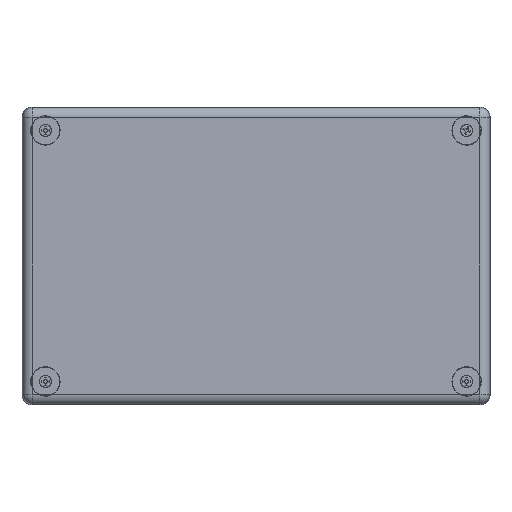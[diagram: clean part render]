
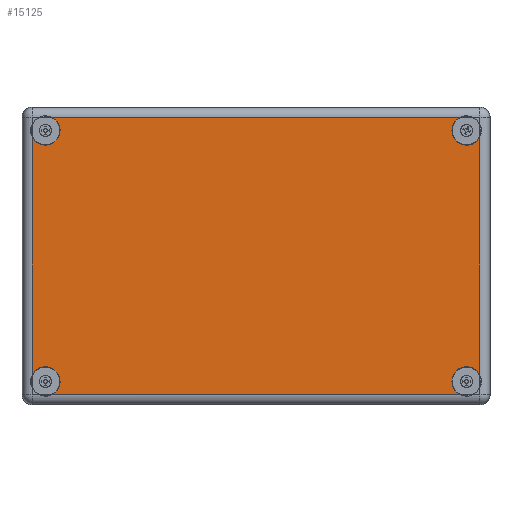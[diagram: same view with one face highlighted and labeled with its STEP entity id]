
A CAD part, top view. The second image highlights one B-rep face of the part: STEP entity #15125.
In plain terms, the highlighted planar face has unit normal (0, 0, 1) as drawn and (0, 0, -1) by its records, which use the part's own axes.
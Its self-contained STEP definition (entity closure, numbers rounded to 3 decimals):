
#523=PLANE('',#16172);
#983=FACE_OUTER_BOUND('',#1920,.T.);
#1920=EDGE_LOOP('',(#10720,#10721,#10722,#10723,#10724,#10725,#10726,#10727,
#10728,#10729));
#3518=LINE('',#20847,#4760);
#3527=LINE('',#20870,#4769);
#3535=LINE('',#20893,#4777);
#3537=LINE('',#20897,#4779);
#4760=VECTOR('',#17254,10.);
#4769=VECTOR('',#17277,10.);
#4777=VECTOR('',#17301,10.);
#4779=VECTOR('',#17307,10.);
#5998=CIRCLE('',#16089,6.9);
#6000=CIRCLE('',#16091,6.9);
#6005=CIRCLE('',#16098,6.9);
#6012=CIRCLE('',#16107,6.9);
#6014=CIRCLE('',#16109,6.9);
#6020=CIRCLE('',#16117,6.9);
#6411=VERTEX_POINT('',#20619);
#6413=VERTEX_POINT('',#20631);
#6415=VERTEX_POINT('',#20636);
#6423=VERTEX_POINT('',#20684);
#6425=VERTEX_POINT('',#20692);
#6435=VERTEX_POINT('',#20749);
#6437=VERTEX_POINT('',#20761);
#6439=VERTEX_POINT('',#20766);
#6450=VERTEX_POINT('',#20824);
#6451=VERTEX_POINT('',#20835);
#7965=EDGE_CURVE('',#6413,#6411,#5998,.T.);
#7968=EDGE_CURVE('',#6415,#6413,#6000,.T.);
#7979=EDGE_CURVE('',#6425,#6423,#6005,.T.);
#7993=EDGE_CURVE('',#6437,#6435,#6012,.T.);
#7996=EDGE_CURVE('',#6439,#6437,#6014,.T.);
#8009=EDGE_CURVE('',#6451,#6450,#6020,.T.);
#8013=EDGE_CURVE('',#6425,#6435,#3518,.T.);
#8026=EDGE_CURVE('',#6439,#6411,#3527,.T.);
#8038=EDGE_CURVE('',#6451,#6423,#3535,.T.);
#8040=EDGE_CURVE('',#6415,#6450,#3537,.T.);
#10720=ORIENTED_EDGE('',*,*,#7968,.T.);
#10721=ORIENTED_EDGE('',*,*,#7965,.T.);
#10722=ORIENTED_EDGE('',*,*,#8026,.F.);
#10723=ORIENTED_EDGE('',*,*,#7996,.T.);
#10724=ORIENTED_EDGE('',*,*,#7993,.T.);
#10725=ORIENTED_EDGE('',*,*,#8013,.F.);
#10726=ORIENTED_EDGE('',*,*,#7979,.T.);
#10727=ORIENTED_EDGE('',*,*,#8038,.F.);
#10728=ORIENTED_EDGE('',*,*,#8009,.T.);
#10729=ORIENTED_EDGE('',*,*,#8040,.F.);
#15125=ADVANCED_FACE('',(#983),#523,.F.);
#16089=AXIS2_PLACEMENT_3D('',#20632,#17185,#17186);
#16091=AXIS2_PLACEMENT_3D('',#20637,#17190,#17191);
#16098=AXIS2_PLACEMENT_3D('',#20693,#17205,#17206);
#16107=AXIS2_PLACEMENT_3D('',#20762,#17225,#17226);
#16109=AXIS2_PLACEMENT_3D('',#20767,#17230,#17231);
#16117=AXIS2_PLACEMENT_3D('',#20836,#17247,#17248);
#16172=AXIS2_PLACEMENT_3D('',#21718,#17578,#17579);
#17185=DIRECTION('center_axis',(0.,0.,1.));
#17186=DIRECTION('ref_axis',(1.,0.,0.));
#17190=DIRECTION('center_axis',(0.,0.,1.));
#17191=DIRECTION('ref_axis',(1.,0.,0.));
#17205=DIRECTION('center_axis',(0.,0.,1.));
#17206=DIRECTION('ref_axis',(1.,0.,0.));
#17225=DIRECTION('center_axis',(0.,0.,1.));
#17226=DIRECTION('ref_axis',(1.,0.,0.));
#17230=DIRECTION('center_axis',(0.,0.,1.));
#17231=DIRECTION('ref_axis',(1.,0.,0.));
#17247=DIRECTION('center_axis',(0.,0.,1.));
#17248=DIRECTION('ref_axis',(1.,0.,0.));
#17254=DIRECTION('',(1.,0.,0.));
#17277=DIRECTION('',(0.,1.,0.));
#17301=DIRECTION('',(0.,-1.,0.));
#17307=DIRECTION('',(-1.,0.,0.));
#17578=DIRECTION('center_axis',(0.,0.,1.));
#17579=DIRECTION('ref_axis',(1.,0.,0.));
#20619=CARTESIAN_POINT('',(105.291,56.166,-9.));
#20631=CARTESIAN_POINT('',(92.1,59.,-9.));
#20632=CARTESIAN_POINT('Origin',(99.,59.,-9.));
#20636=CARTESIAN_POINT('',(96.166,65.291,-9.));
#20637=CARTESIAN_POINT('Origin',(99.,59.,-9.));
#20684=CARTESIAN_POINT('',(-105.291,-56.166,-9.));
#20692=CARTESIAN_POINT('',(-96.166,-65.291,-9.));
#20693=CARTESIAN_POINT('Origin',(-99.,-59.,-9.));
#20749=CARTESIAN_POINT('',(96.166,-65.291,-9.));
#20761=CARTESIAN_POINT('',(92.1,-59.,-9.));
#20762=CARTESIAN_POINT('Origin',(99.,-59.,-9.));
#20766=CARTESIAN_POINT('',(105.291,-56.166,-9.));
#20767=CARTESIAN_POINT('Origin',(99.,-59.,-9.));
#20824=CARTESIAN_POINT('',(-96.166,65.291,-9.));
#20835=CARTESIAN_POINT('',(-105.291,56.166,-9.));
#20836=CARTESIAN_POINT('Origin',(-99.,59.,-9.));
#20847=CARTESIAN_POINT('',(-55.,-65.291,-9.));
#20870=CARTESIAN_POINT('',(105.291,-35.,-9.));
#20893=CARTESIAN_POINT('',(-105.291,35.,-9.));
#20897=CARTESIAN_POINT('',(55.,65.291,-9.));
#21718=CARTESIAN_POINT('Origin',(0.,0.,
-9.));
